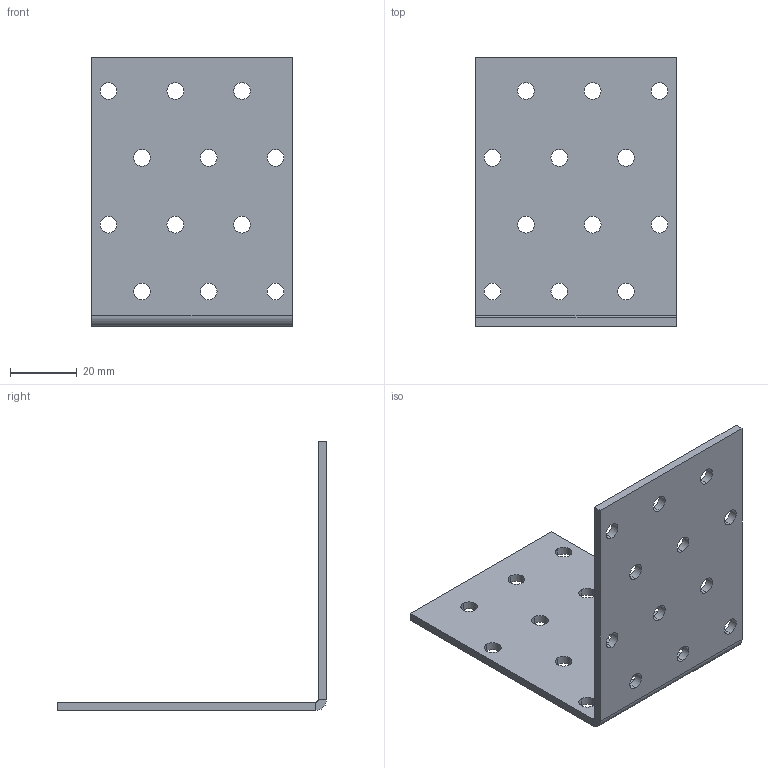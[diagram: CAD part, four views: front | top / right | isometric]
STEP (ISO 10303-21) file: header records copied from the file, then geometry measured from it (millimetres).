
FILE_DESCRIPTION (( 'STEP AP203' ), '1' );
FILE_NAME ('10507.STEP', '2020-04-20T10:59:57', ( '' ), ( '' ), 'SwSTEP 2.0', 'SolidWorks 2013', '' );
FILE_SCHEMA (( 'CONFIG_CONTROL_DESIGN' ));
Length unit declared in the file: millimetre
Products named in the file (1): 10507
Bounding box: 60 x 80.46 x 80.46 mm (x, y, z)
Volume: 22457.5 mm3; surface area: 19996.3 mm2
Topology: 1 solids, 1 shells, 60 faces, 170 edges, 112 vertices
Faces by surface type: cylinder 50, plane 10
Entity records: 2175 total; most frequent: DIRECTION 392, CARTESIAN_POINT 343, ORIENTED_EDGE 340, EDGE_CURVE 170, AXIS2_PLACEMENT_3D 161, VERTEX_POINT 112, EDGE_LOOP 108, CIRCLE 100
